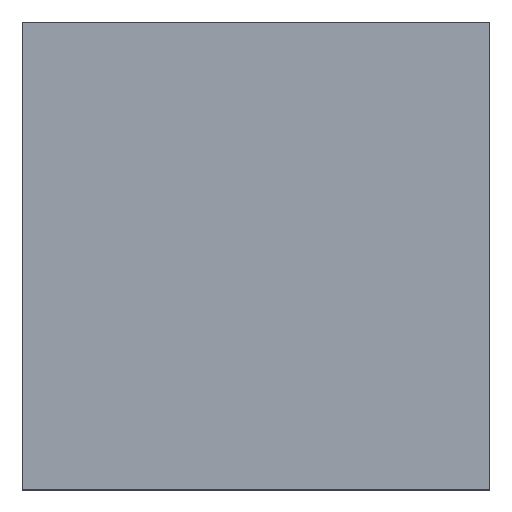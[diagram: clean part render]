
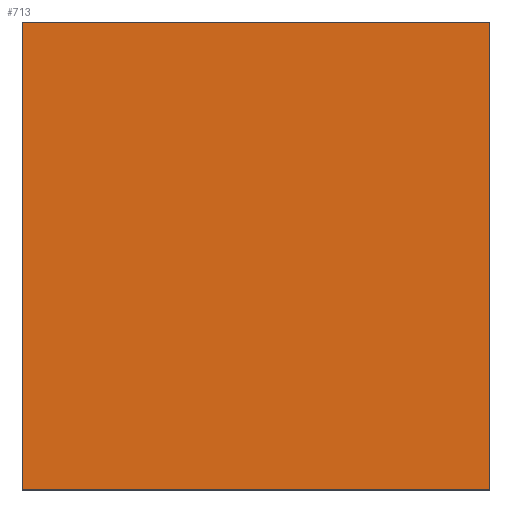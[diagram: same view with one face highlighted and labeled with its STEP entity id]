
A CAD part, top view. The second image highlights one B-rep face of the part: STEP entity #713.
In plain terms, the highlighted planar face has unit normal (0, 0, 1).
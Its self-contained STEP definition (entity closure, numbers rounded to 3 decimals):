
#399 = VERTEX_POINT('',#400);
#400 = CARTESIAN_POINT('',(-9.1,-9.1,18.7));
#407 = PLANE('',#408);
#408 = AXIS2_PLACEMENT_3D('',#409,#410,#411);
#409 = CARTESIAN_POINT('',(-9.1,-9.1,9.5));
#410 = DIRECTION('',(1.,0.,0.));
#411 = DIRECTION('',(0.,0.,1.));
#419 = PLANE('',#420);
#420 = AXIS2_PLACEMENT_3D('',#421,#422,#423);
#421 = CARTESIAN_POINT('',(-9.1,-9.1,9.5));
#422 = DIRECTION('',(0.,1.,0.));
#423 = DIRECTION('',(0.,0.,1.));
#460 = VERTEX_POINT('',#461);
#461 = CARTESIAN_POINT('',(-9.1,9.1,18.7));
#475 = PLANE('',#476);
#476 = AXIS2_PLACEMENT_3D('',#477,#478,#479);
#477 = CARTESIAN_POINT('',(-9.1,9.1,9.5));
#478 = DIRECTION('',(0.,1.,0.));
#479 = DIRECTION('',(0.,0.,1.));
#487 = EDGE_CURVE('',#399,#460,#488,.T.);
#488 = SURFACE_CURVE('',#489,(#493,#500),.PCURVE_S1.);
#489 = LINE('',#490,#491);
#490 = CARTESIAN_POINT('',(-9.1,-9.1,18.7));
#491 = VECTOR('',#492,1.);
#492 = DIRECTION('',(0.,1.,0.));
#493 = PCURVE('',#407,#494);
#494 = DEFINITIONAL_REPRESENTATION('',(#495),#499);
#495 = LINE('',#496,#497);
#496 = CARTESIAN_POINT('',(9.2,0.));
#497 = VECTOR('',#498,1.);
#498 = DIRECTION('',(0.,-1.));
#499 = ( GEOMETRIC_REPRESENTATION_CONTEXT(2) 
PARAMETRIC_REPRESENTATION_CONTEXT() REPRESENTATION_CONTEXT('2D SPACE',''
  ) );
#500 = PCURVE('',#501,#506);
#501 = PLANE('',#502);
#502 = AXIS2_PLACEMENT_3D('',#503,#504,#505);
#503 = CARTESIAN_POINT('',(-9.1,-9.1,18.7));
#504 = DIRECTION('',(0.,0.,1.));
#505 = DIRECTION('',(1.,0.,0.));
#506 = DEFINITIONAL_REPRESENTATION('',(#507),#511);
#507 = LINE('',#508,#509);
#508 = CARTESIAN_POINT('',(0.,0.));
#509 = VECTOR('',#510,1.);
#510 = DIRECTION('',(0.,1.));
#511 = ( GEOMETRIC_REPRESENTATION_CONTEXT(2) 
PARAMETRIC_REPRESENTATION_CONTEXT() REPRESENTATION_CONTEXT('2D SPACE',''
  ) );
#519 = VERTEX_POINT('',#520);
#520 = CARTESIAN_POINT('',(9.1,-9.1,18.7));
#527 = PLANE('',#528);
#528 = AXIS2_PLACEMENT_3D('',#529,#530,#531);
#529 = CARTESIAN_POINT('',(9.1,-9.1,9.5));
#530 = DIRECTION('',(1.,0.,0.));
#531 = DIRECTION('',(0.,0.,1.));
#570 = VERTEX_POINT('',#571);
#571 = CARTESIAN_POINT('',(9.1,9.1,18.7));
#592 = EDGE_CURVE('',#519,#570,#593,.T.);
#593 = SURFACE_CURVE('',#594,(#598,#605),.PCURVE_S1.);
#594 = LINE('',#595,#596);
#595 = CARTESIAN_POINT('',(9.1,-9.1,18.7));
#596 = VECTOR('',#597,1.);
#597 = DIRECTION('',(0.,1.,0.));
#598 = PCURVE('',#527,#599);
#599 = DEFINITIONAL_REPRESENTATION('',(#600),#604);
#600 = LINE('',#601,#602);
#601 = CARTESIAN_POINT('',(9.2,0.));
#602 = VECTOR('',#603,1.);
#603 = DIRECTION('',(0.,-1.));
#604 = ( GEOMETRIC_REPRESENTATION_CONTEXT(2) 
PARAMETRIC_REPRESENTATION_CONTEXT() REPRESENTATION_CONTEXT('2D SPACE',''
  ) );
#605 = PCURVE('',#501,#606);
#606 = DEFINITIONAL_REPRESENTATION('',(#607),#611);
#607 = LINE('',#608,#609);
#608 = CARTESIAN_POINT('',(18.2,0.));
#609 = VECTOR('',#610,1.);
#610 = DIRECTION('',(0.,1.));
#611 = ( GEOMETRIC_REPRESENTATION_CONTEXT(2) 
PARAMETRIC_REPRESENTATION_CONTEXT() REPRESENTATION_CONTEXT('2D SPACE',''
  ) );
#638 = EDGE_CURVE('',#399,#519,#639,.T.);
#639 = SURFACE_CURVE('',#640,(#644,#651),.PCURVE_S1.);
#640 = LINE('',#641,#642);
#641 = CARTESIAN_POINT('',(-9.1,-9.1,18.7));
#642 = VECTOR('',#643,1.);
#643 = DIRECTION('',(1.,0.,0.));
#644 = PCURVE('',#419,#645);
#645 = DEFINITIONAL_REPRESENTATION('',(#646),#650);
#646 = LINE('',#647,#648);
#647 = CARTESIAN_POINT('',(9.2,0.));
#648 = VECTOR('',#649,1.);
#649 = DIRECTION('',(0.,1.));
#650 = ( GEOMETRIC_REPRESENTATION_CONTEXT(2) 
PARAMETRIC_REPRESENTATION_CONTEXT() REPRESENTATION_CONTEXT('2D SPACE',''
  ) );
#651 = PCURVE('',#501,#652);
#652 = DEFINITIONAL_REPRESENTATION('',(#653),#657);
#653 = LINE('',#654,#655);
#654 = CARTESIAN_POINT('',(0.,0.));
#655 = VECTOR('',#656,1.);
#656 = DIRECTION('',(1.,0.));
#657 = ( GEOMETRIC_REPRESENTATION_CONTEXT(2) 
PARAMETRIC_REPRESENTATION_CONTEXT() REPRESENTATION_CONTEXT('2D SPACE',''
  ) );
#685 = EDGE_CURVE('',#460,#570,#686,.T.);
#686 = SURFACE_CURVE('',#687,(#691,#698),.PCURVE_S1.);
#687 = LINE('',#688,#689);
#688 = CARTESIAN_POINT('',(-9.1,9.1,18.7));
#689 = VECTOR('',#690,1.);
#690 = DIRECTION('',(1.,0.,0.));
#691 = PCURVE('',#475,#692);
#692 = DEFINITIONAL_REPRESENTATION('',(#693),#697);
#693 = LINE('',#694,#695);
#694 = CARTESIAN_POINT('',(9.2,0.));
#695 = VECTOR('',#696,1.);
#696 = DIRECTION('',(0.,1.));
#697 = ( GEOMETRIC_REPRESENTATION_CONTEXT(2) 
PARAMETRIC_REPRESENTATION_CONTEXT() REPRESENTATION_CONTEXT('2D SPACE',''
  ) );
#698 = PCURVE('',#501,#699);
#699 = DEFINITIONAL_REPRESENTATION('',(#700),#704);
#700 = LINE('',#701,#702);
#701 = CARTESIAN_POINT('',(0.,18.2));
#702 = VECTOR('',#703,1.);
#703 = DIRECTION('',(1.,0.));
#704 = ( GEOMETRIC_REPRESENTATION_CONTEXT(2) 
PARAMETRIC_REPRESENTATION_CONTEXT() REPRESENTATION_CONTEXT('2D SPACE',''
  ) );
#713 = ADVANCED_FACE('',(#714),#501,.T.);
#714 = FACE_BOUND('',#715,.T.);
#715 = EDGE_LOOP('',(#716,#717,#718,#719));
#716 = ORIENTED_EDGE('',*,*,#487,.F.);
#717 = ORIENTED_EDGE('',*,*,#638,.T.);
#718 = ORIENTED_EDGE('',*,*,#592,.T.);
#719 = ORIENTED_EDGE('',*,*,#685,.F.);
